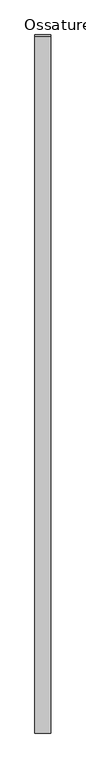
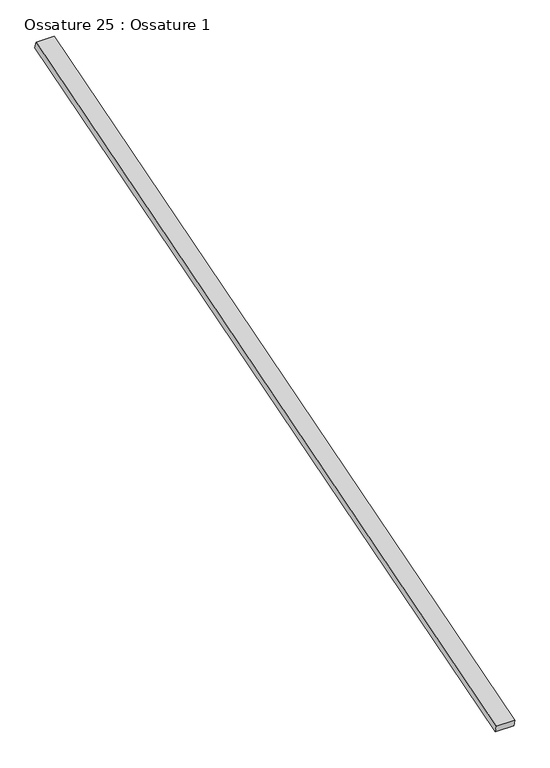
"""IFC4 building model written with IfcOpenShell, lengths in millimetres: beam geometry, Ossature 25 : Ossature 1."""

from ifc_helpers import new_model, si_unit, frame, origin, place, context, project, spatial, polyline, outline, extrude, source, transform, mapped, element, save


def ossature_25_ossature_1_eb798a86(model_context):
    return source(origin(), model_context, "Body", "SweptSolid", [
        extrude(outline(polyline([(0.0, 0.0), (0.0, -4543.0299679), (-100.0, -4543.0299679), (-100.0, 0.0), (0.0, 0.0)])), frame((6260.6466393, -833.3913565, 8153.6336115), z_axis=(0.0, -0.28734788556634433, 0.9578262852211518), x_axis=(-1.0, 0.0, 0.0)), (0.0, 0.0, 1.0), 40.0),
    ])


if __name__ == "__main__":
    model = new_model("IFC4")
    model_context = context("Model", 3, world=origin())
    ifc_project = project(units=[si_unit("LENGTHUNIT", "METRE", prefix="MILLI")], contexts=[model_context])
    site = spatial("IfcSite", under=ifc_project)
    building = spatial("IfcBuilding", under=site)
    placement = place(None, origin())
    ossature_25_ossature_1_shape = ossature_25_ossature_1_eb798a86(model_context)
    element("IfcBeam", 1, ObjectType="Ossature 25 : Ossature 1", at=placement, inside=building, context=model_context, shape_type="MappedRepresentation", body=[
        mapped(ossature_25_ossature_1_shape, transform((0.0, 0.0, 0.0), x_axis=(1.0, 0.0, 0.0), y_axis=(0.0, 1.0, 0.0), z_axis=(0.0, 0.0, 1.0))),
    ])
    save(model, "model.ifc")
